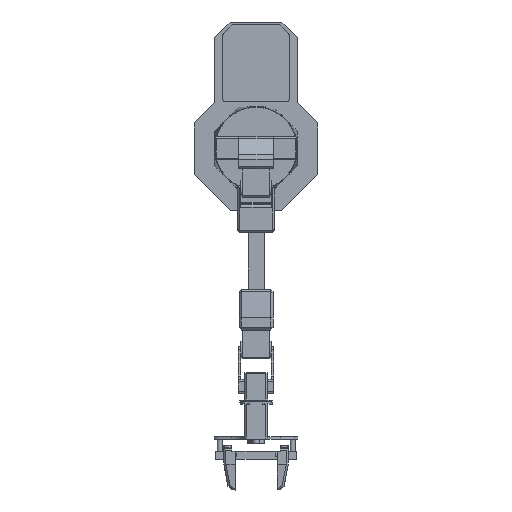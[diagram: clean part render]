
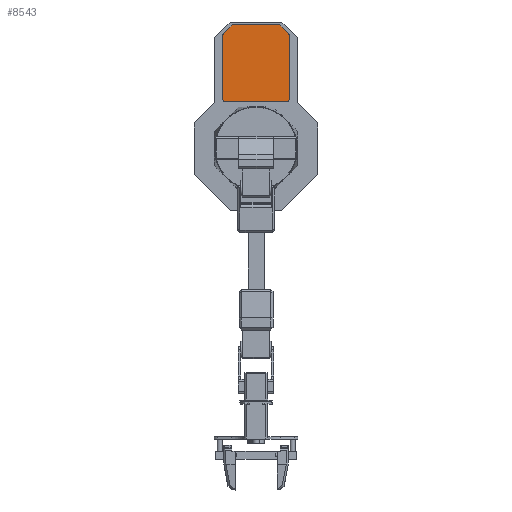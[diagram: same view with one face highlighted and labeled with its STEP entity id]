
A CAD part, top view. The second image highlights one B-rep face of the part: STEP entity #8543.
In plain terms, the highlighted planar face has unit normal (0, 0, 1).
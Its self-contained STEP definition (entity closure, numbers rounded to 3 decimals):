
#245=PLANE('',#9165);
#611=FACE_OUTER_BOUND('',#1129,.T.);
#1129=EDGE_LOOP('',(#5911,#5912,#5913,#5914,#5915,#5916,#5917,#5918,#5919,
#5920,#5921,#5922));
#1677=LINE('',#12499,#2600);
#1681=LINE('',#12511,#2604);
#1685=LINE('',#12523,#2608);
#1689=LINE('',#12535,#2612);
#1693=LINE('',#12547,#2616);
#1696=LINE('',#12556,#2619);
#2600=VECTOR('',#9962,10.);
#2604=VECTOR('',#9974,10.);
#2608=VECTOR('',#9986,10.);
#2612=VECTOR('',#9998,10.);
#2616=VECTOR('',#10010,10.);
#2619=VECTOR('',#10021,10.);
#3520=CIRCLE('',#9143,3.);
#3522=CIRCLE('',#9147,3.);
#3524=CIRCLE('',#9151,3.);
#3526=CIRCLE('',#9155,3.);
#3528=CIRCLE('',#9159,2.5);
#3530=CIRCLE('',#9163,2.5);
#3785=VERTEX_POINT('',#12489);
#3786=VERTEX_POINT('',#12491);
#3788=VERTEX_POINT('',#12497);
#3790=VERTEX_POINT('',#12503);
#3792=VERTEX_POINT('',#12509);
#3794=VERTEX_POINT('',#12515);
#3796=VERTEX_POINT('',#12521);
#3798=VERTEX_POINT('',#12527);
#3800=VERTEX_POINT('',#12533);
#3802=VERTEX_POINT('',#12539);
#3804=VERTEX_POINT('',#12545);
#3806=VERTEX_POINT('',#12551);
#4591=EDGE_CURVE('',#3786,#3785,#3520,.T.);
#4595=EDGE_CURVE('',#3785,#3788,#1677,.T.);
#4598=EDGE_CURVE('',#3788,#3790,#3522,.T.);
#4601=EDGE_CURVE('',#3790,#3792,#1681,.T.);
#4604=EDGE_CURVE('',#3792,#3794,#3524,.T.);
#4607=EDGE_CURVE('',#3794,#3796,#1685,.T.);
#4610=EDGE_CURVE('',#3796,#3798,#3526,.T.);
#4613=EDGE_CURVE('',#3798,#3800,#1689,.T.);
#4616=EDGE_CURVE('',#3800,#3802,#3528,.T.);
#4619=EDGE_CURVE('',#3802,#3804,#1693,.T.);
#4622=EDGE_CURVE('',#3804,#3806,#3530,.T.);
#4624=EDGE_CURVE('',#3806,#3786,#1696,.T.);
#5911=ORIENTED_EDGE('',*,*,#4604,.T.);
#5912=ORIENTED_EDGE('',*,*,#4607,.T.);
#5913=ORIENTED_EDGE('',*,*,#4610,.T.);
#5914=ORIENTED_EDGE('',*,*,#4613,.T.);
#5915=ORIENTED_EDGE('',*,*,#4616,.T.);
#5916=ORIENTED_EDGE('',*,*,#4619,.T.);
#5917=ORIENTED_EDGE('',*,*,#4622,.T.);
#5918=ORIENTED_EDGE('',*,*,#4624,.T.);
#5919=ORIENTED_EDGE('',*,*,#4591,.T.);
#5920=ORIENTED_EDGE('',*,*,#4595,.T.);
#5921=ORIENTED_EDGE('',*,*,#4598,.T.);
#5922=ORIENTED_EDGE('',*,*,#4601,.T.);
#8543=ADVANCED_FACE('',(#611),#245,.T.);
#9143=AXIS2_PLACEMENT_3D('',#12492,#9955,#9956);
#9147=AXIS2_PLACEMENT_3D('',#12505,#9968,#9969);
#9151=AXIS2_PLACEMENT_3D('',#12517,#9980,#9981);
#9155=AXIS2_PLACEMENT_3D('',#12529,#9992,#9993);
#9159=AXIS2_PLACEMENT_3D('',#12541,#10004,#10005);
#9163=AXIS2_PLACEMENT_3D('',#12553,#10016,#10017);
#9165=AXIS2_PLACEMENT_3D('',#12557,#10022,#10023);
#9955=DIRECTION('center_axis',(0.,0.,
1.));
#9956=DIRECTION('ref_axis',(-0.707,0.707,0.));
#9962=DIRECTION('',(0.,-1.,0.));
#9968=DIRECTION('center_axis',(0.,0.,
1.));
#9969=DIRECTION('ref_axis',(-1.,0.,0.));
#9974=DIRECTION('',(1.,0.,0.));
#9980=DIRECTION('center_axis',(0.,0.,
1.));
#9981=DIRECTION('ref_axis',(0.,-1.,0.));
#9986=DIRECTION('',(0.,1.,0.));
#9992=DIRECTION('center_axis',(0.,0.,
1.));
#9993=DIRECTION('ref_axis',(1.,0.,0.));
#9998=DIRECTION('',(-0.707,0.707,0.));
#10004=DIRECTION('center_axis',(0.,0.,
1.));
#10005=DIRECTION('ref_axis',(0.707,0.707,0.));
#10010=DIRECTION('',(-1.,-0.001,0.));
#10016=DIRECTION('center_axis',(0.,0.,
1.));
#10017=DIRECTION('ref_axis',(-0.001,1.,0.));
#10021=DIRECTION('',(-0.707,-0.707,0.));
#10022=DIRECTION('center_axis',(0.,0.,
1.));
#10023=DIRECTION('ref_axis',(-1.,0.,0.));
#12489=CARTESIAN_POINT('',(-41.,140.757,37.));
#12491=CARTESIAN_POINT('',(-40.121,142.879,37.));
#12492=CARTESIAN_POINT('Origin',(-38.,140.757,37.));
#12497=CARTESIAN_POINT('',(-41.,61.,37.));
#12499=CARTESIAN_POINT('',(-41.,140.757,37.));
#12503=CARTESIAN_POINT('',(-38.,58.,37.));
#12505=CARTESIAN_POINT('Origin',(-38.,61.,37.));
#12509=CARTESIAN_POINT('',(38.,58.,37.));
#12511=CARTESIAN_POINT('',(-38.,58.,37.));
#12515=CARTESIAN_POINT('',(41.,61.,37.));
#12517=CARTESIAN_POINT('Origin',(38.,61.,37.));
#12521=CARTESIAN_POINT('',(41.,140.757,37.));
#12523=CARTESIAN_POINT('',(41.,61.,37.));
#12527=CARTESIAN_POINT('',(40.121,142.879,37.));
#12529=CARTESIAN_POINT('Origin',(38.,140.757,37.));
#12533=CARTESIAN_POINT('',(29.673,153.327,37.));
#12535=CARTESIAN_POINT('',(40.121,142.879,37.));
#12539=CARTESIAN_POINT('',(27.904,154.059,37.));
#12541=CARTESIAN_POINT('Origin',(27.906,151.559,37.));
#12545=CARTESIAN_POINT('',(-27.943,154.023,37.));
#12547=CARTESIAN_POINT('',(27.904,154.059,37.));
#12551=CARTESIAN_POINT('',(-29.71,153.29,37.));
#12553=CARTESIAN_POINT('Origin',(-27.942,151.523,37.));
#12556=CARTESIAN_POINT('',(-29.71,153.29,37.));
#12557=CARTESIAN_POINT('Origin',(0.,106.029,
37.));
